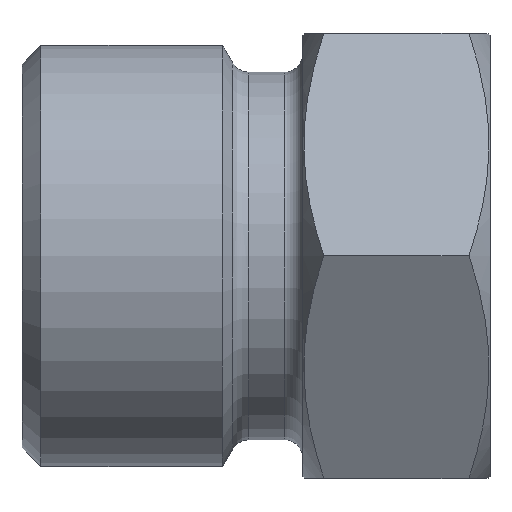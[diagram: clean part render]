
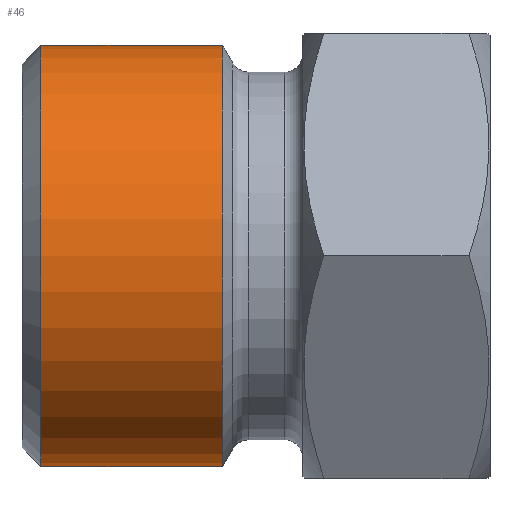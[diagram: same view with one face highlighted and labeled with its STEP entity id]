
A CAD part, top view. The second image highlights one B-rep face of the part: STEP entity #46.
In plain terms, the highlighted cylindrical face has radius 9 mm (diameter 18 mm), a full revolution.
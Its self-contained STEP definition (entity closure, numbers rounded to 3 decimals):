
#46 = ADVANCED_FACE( '', ( #107, #108 ), #109, .T. );
#107 = FACE_OUTER_BOUND( '', #195, .T. );
#108 = FACE_OUTER_BOUND( '', #196, .T. );
#109 = CYLINDRICAL_SURFACE( '', #197, 9. );
#195 = EDGE_LOOP( '', ( #277 ) );
#196 = EDGE_LOOP( '', ( #278 ) );
#197 = AXIS2_PLACEMENT_3D( '', #279, #280, #281 );
#277 = ORIENTED_EDGE( '', *, *, #430, .T. );
#278 = ORIENTED_EDGE( '', *, *, #431, .T. );
#279 = CARTESIAN_POINT( '', ( -60., 0., 0. ) );
#280 = DIRECTION( '', ( 1., 0., 0. ) );
#281 = DIRECTION( '', ( 0., 0., 1. ) );
#430 = EDGE_CURVE( '', #485, #485, #486, .T. );
#431 = EDGE_CURVE( '', #487, #487, #488, .T. );
#485 = VERTEX_POINT( '', #565 );
#486 = CIRCLE( '', #566, 9. );
#487 = VERTEX_POINT( '', #567 );
#488 = CIRCLE( '', #568, 9. );
#565 = CARTESIAN_POINT( '', ( -19.2, 0., -9. ) );
#566 = AXIS2_PLACEMENT_3D( '', #782, #783, #784 );
#567 = CARTESIAN_POINT( '', ( -11.433, 0., 9. ) );
#568 = AXIS2_PLACEMENT_3D( '', #785, #786, #787 );
#782 = CARTESIAN_POINT( '', ( -19.2, 0., 0. ) );
#783 = DIRECTION( '', ( 1., 0., 0. ) );
#784 = DIRECTION( '', ( 0., 0., -1. ) );
#785 = CARTESIAN_POINT( '', ( -11.433, 0., 0. ) );
#786 = DIRECTION( '', ( -1., 0., 0. ) );
#787 = DIRECTION( '', ( 0., 0., 1. ) );
